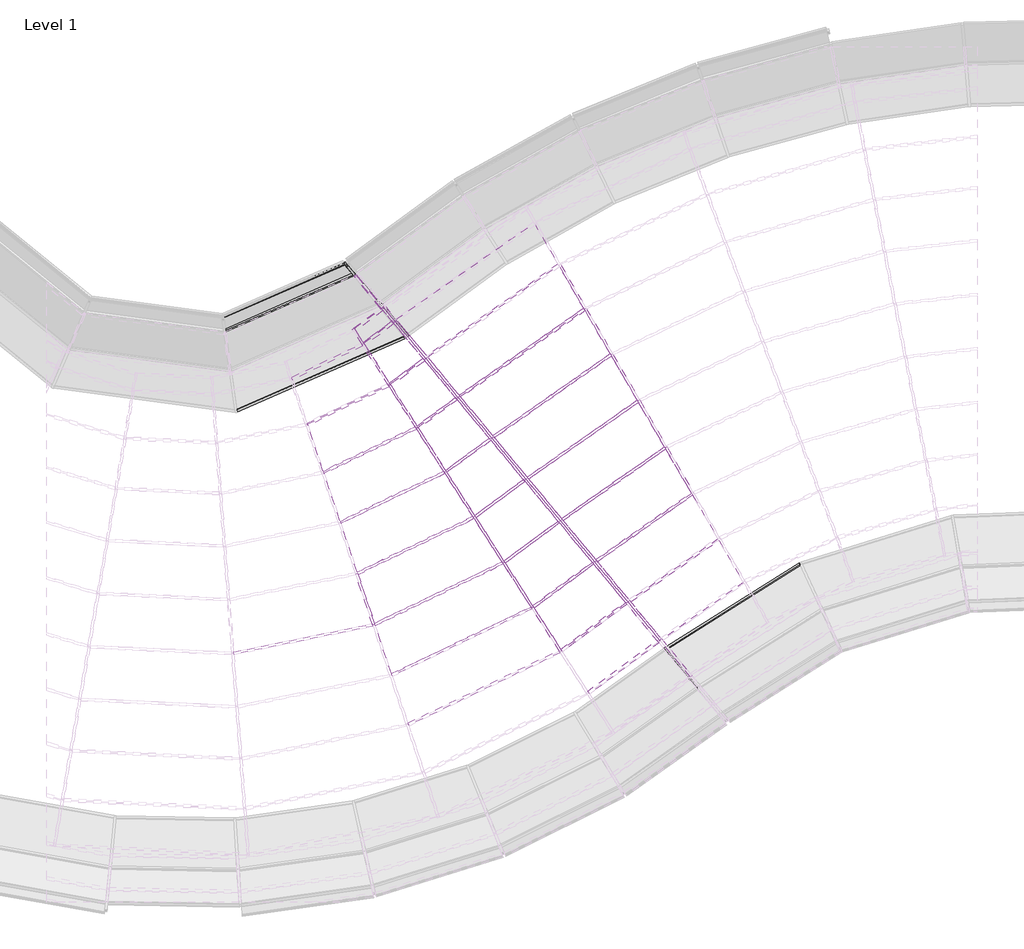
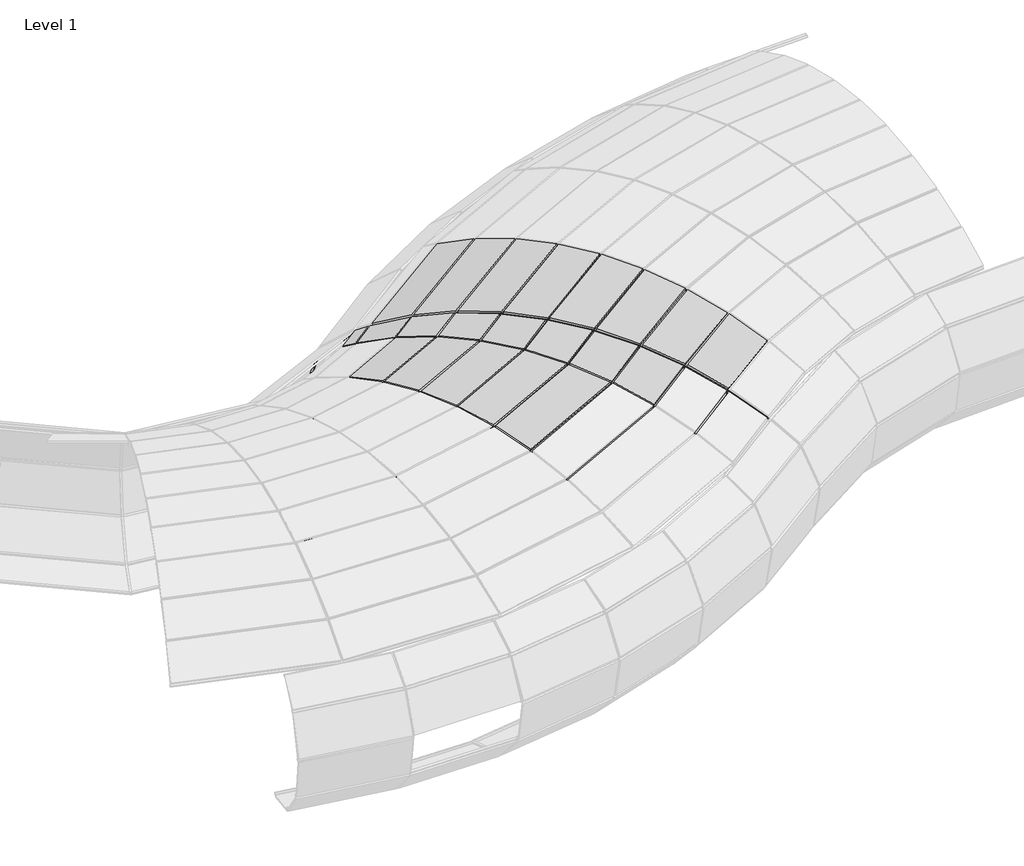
# One storey, part 7 of 23: 70 members, 21 plates.
"""IFC4 building model written with IfcOpenShell, lengths in millimetres."""

from ifc_helpers import new_model, si_unit, origin, place, context, project, spatial, transform, mapped, element, save
from components import member_da94d8b7, member_4a6620f8, member_173a6c74, member_0cd36c09, member_d0a40a1c, member_ff9adfd2, member_4382594b, member_c4b67a82, member_09e3c60a, member_ff354828, member_916b48e0, member_15ddbe85, member_a6ff0e58, member_52a3ac57, member_58e85060, member_2f10e2aa, member_56cded33, member_ca6af547, member_2c27c1a6, member_cfe416e1, member_8c9da58c, member_d6b8231b, member_072b4eca, member_c876edb5, member_88ffdf74, member_782630c7, member_6b724055, member_398e5ff5, member_61362789, member_0ea93e7c, member_4ad77235, member_01d9c279, member_724b312c, member_398607d0, member_12c77cbe, member_6b55b28e, member_04fa56c0, member_b16b9eb4, member_5ccaa950, member_ed473375, member_8050fb01, member_9defe418, member_57d99a8e, member_3bb0283d, member_1e977d90, member_54c9b6a8, member_299080b6, member_172ab1ab, member_54499f2f, member_1f55a63e, member_9f1fe171, member_9a79e7da, member_69edc900, system_panel_glazed_261e48b5, system_panel_glazed_23d094c6, system_panel_glazed_e1662e95, system_panel_glazed_d8ebcc32, system_panel_glazed_c9a67386, system_panel_glazed_185d81c2, system_panel_glazed_2beafd58, system_panel_glazed_ade15bac, system_panel_glazed_0c8f51a5, system_panel_glazed_7d733e69, system_panel_glazed_2df72c5f, system_panel_glazed_1f33159c, system_panel_glazed_93f5a557, system_panel_glazed_b4bd1deb, system_panel_glazed_67e226c0, system_panel_glazed_ffd0fcf6, system_panel_glazed_4b3f9bf2, system_panel_glazed_fd5b3178, system_panel_glazed_17174457, system_panel_glazed_b17f74a0, system_panel_glazed_a665e57d

model = new_model("IFC4")

# Units and contexts
model_context = context("Model", 3, world=origin())
ifc_project = project(units=[si_unit("LENGTHUNIT", "METRE", prefix="MILLI")], contexts=[model_context])

# Site, building, storey
site = spatial("IfcSite", under=ifc_project)
building = spatial("IfcBuilding", under=site)
storey = spatial("IfcBuildingStorey", under=building, Name="Level 1", Elevation=0.0)

# Members
placement = place(None, origin())
member_shape = member_da94d8b7(model_context)
element("IfcMember", 1, ObjectType="Rectangular Mullion : 1\" Square", at=placement, inside=storey, context=model_context, shape_type="MappedRepresentation", body=[
    mapped(member_shape, transform((-4489.9913896, -7841.6452562, 0.0), x_axis=(-0.5112600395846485, 0.8116646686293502, -0.2825130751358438), y_axis=(0.1505714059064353, -0.23904369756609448, -0.9592634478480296), z_axis=(-0.8461332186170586, -0.5329714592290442, 0.0))),
])
member_2_shape = member_4a6620f8(model_context)
element("IfcMember", 2, ObjectType="Rectangular Mullion : 1\" Square", at=placement, inside=storey, context=model_context, shape_type="MappedRepresentation", body=[
    mapped(member_2_shape, transform((-4518.8359646, -5597.6563841, 2850.17796), x_axis=(-0.5707204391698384, 0.8169353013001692, 0.08303549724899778), y_axis=(0.047554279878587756, -0.06806970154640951, 0.9965465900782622), z_axis=(0.8197662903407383, 0.5726982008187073, 0.0))),
])
member_3_shape = member_173a6c74(model_context)
element("IfcMember", 3, ObjectType="Rectangular Mullion : 1\" Square", at=placement, inside=storey, context=model_context, shape_type="MappedRepresentation", body=[
    mapped(member_3_shape, transform((-5700.0880509, -6422.892738, 2850.17796), x_axis=(0.7695535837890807, 0.6385806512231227, 0.001426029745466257), y_axis=(0.013927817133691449, -0.01901691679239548, 0.9997221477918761), z_axis=(0.6384303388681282, -0.7693199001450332, -0.023528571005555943))),
])
member_4_shape = member_0cd36c09(model_context)
element("IfcMember", 4, ObjectType="Rectangular Mullion : 1\" Square", at=placement, inside=storey, context=model_context, shape_type="MappedRepresentation", body=[
    mapped(member_4_shape, transform((-4205.0071727, -6111.9340836, 2763.3769688), x_axis=(0.8643700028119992, 0.5028563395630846, 0.0), y_axis=(0.07160175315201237, -0.12307771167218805, 0.9898106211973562), z_axis=(0.4977325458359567, -0.8555626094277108, -0.14239007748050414))),
])
element("IfcMember", 5, ObjectType="Rectangular Mullion : 1\" Square", at=placement, inside=storey, context=model_context, shape_type="MappedRepresentation", body=[
    mapped(member_4_shape, transform((-4508.4249327, -5590.3831169, 2850.17796), x_axis=(0.8643700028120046, 0.5028563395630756, 0.0), y_axis=(0.011831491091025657, -0.020337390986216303, 0.9997231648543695), z_axis=(0.5027171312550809, -0.8641307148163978, -0.023528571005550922))),
])
element("IfcMember", 6, ObjectType="Rectangular Mullion : 1\" Square", at=placement, inside=storey, context=model_context, shape_type="MappedRepresentation", body=[
    mapped(member_4_shape, transform((-7812.4907951, -7599.9482187, 2850.17796), x_axis=(0.9479570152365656, 0.31839833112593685, 0.0), y_axis=(0.007491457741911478, -0.022304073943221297, 0.9997231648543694), z_axis=(0.31831018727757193, -0.9476945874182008, -0.02352857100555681))),
])
element("IfcMember", 7, ObjectType="Rectangular Mullion : 1\" Square", at=placement, inside=storey, context=model_context, shape_type="MappedRepresentation", body=[
    mapped(member_4_shape, transform((-5699.3138591, -7897.3054898, 2605.3528615), x_axis=(0.841044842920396, 0.5409654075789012, 0.0), y_axis=(0.1402322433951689, -0.218020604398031, 0.965816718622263), z_axis=(0.5224734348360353, -0.8122951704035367, -0.259225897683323))),
])
element("IfcMember", 8, ObjectType="Rectangular Mullion : 1\" Square", at=placement, inside=storey, context=model_context, shape_type="MappedRepresentation", body=[
    mapped(member_4_shape, transform((-6017.813665, -7402.1303539, 2763.3769688), x_axis=(0.8410448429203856, 0.5409654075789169, 0.0), y_axis=(0.07702810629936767, -0.11975644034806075, 0.9898106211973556), z_axis=(0.5354533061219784, -0.8324751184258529, -0.14239007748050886))),
])
element("IfcMember", 9, ObjectType="Rectangular Mullion : 1\" Square", at=placement, inside=storey, context=model_context, shape_type="MappedRepresentation", body=[
    mapped(member_4_shape, transform((-6344.2260004, -6894.6535217, 2850.17796), x_axis=(0.8410448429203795, 0.5409654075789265, 0.0), y_axis=(0.012728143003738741, -0.019788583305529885, 0.9997231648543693), z_axis=(0.5408156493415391, -0.8408120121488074, -0.023528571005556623))),
])
element("IfcMember", 10, ObjectType="Rectangular Mullion : 1\" Square", at=placement, inside=storey, context=model_context, shape_type="MappedRepresentation", body=[
    mapped(member_4_shape, transform((-4814.8812959, -5063.6090332, 2864.5209769), x_axis=(0.8643700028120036, 0.5028563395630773, 0.0), y_axis=(-0.04810708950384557, 0.08269225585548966, 0.9954133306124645), z_axis=(0.5005499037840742, -0.8604054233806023, 0.09566766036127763))),
])
element("IfcMember", 11, ObjectType="Rectangular Mullion : 1\" Square", at=placement, inside=storey, context=model_context, shape_type="MappedRepresentation", body=[
    mapped(member_4_shape, transform((-5120.0165172, -4539.1058871, 2806.2019711), x_axis=(0.8643700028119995, 0.5028563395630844, 0.0), y_axis=(-0.10736128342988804, 0.18454549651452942, 0.9769424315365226), z_axis=(0.4912616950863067, -0.8444397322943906, 0.21350289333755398))),
])
element("IfcMember", 12, ObjectType="Rectangular Mullion : 1\" Square", at=placement, inside=storey, context=model_context, shape_type="MappedRepresentation", body=[
    mapped(member_4_shape, transform((-5419.4896466, -4024.3354263, 2676.0506073), x_axis=(0.8643700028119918, 0.5028563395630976, 0.0), y_axis=(-0.16508812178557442, 0.2837733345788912, 0.9445732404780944), z_axis=(0.4749846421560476, -0.8164607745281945, 0.3283007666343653))),
])
element("IfcMember", 13, ObjectType="Rectangular Mullion : 1\" Square", at=placement, inside=storey, context=model_context, shape_type="MappedRepresentation", body=[
    mapped(member_4_shape, transform((-6673.9072202, -6382.0945191, 2864.5209769), x_axis=(0.8410448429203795, 0.5409654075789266, 0.0), y_axis=(-0.05175289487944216, 0.0804607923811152, 0.995413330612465), z_axis=(0.5384841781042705, -0.8371872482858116, 0.09566766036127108))),
])
element("IfcMember", 14, ObjectType="Rectangular Mullion : 1\" Square", at=placement, inside=storey, context=model_context, shape_type="MappedRepresentation", body=[
    mapped(member_4_shape, transform((-7002.1671752, -5871.7451726, 2806.2019711), x_axis=(0.8410448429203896, 0.540965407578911, 0.0), y_axis=(-0.11549767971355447, 0.17956550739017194, 0.9769424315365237), z_axis=(0.5284920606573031, -0.8216523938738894, 0.21350289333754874))),
])
element("IfcMember", 15, ObjectType="Rectangular Mullion : 1\" Square", at=placement, inside=storey, context=model_context, shape_type="MappedRepresentation", body=[
    mapped(member_4_shape, transform((-7324.3359353, -5370.8658733, 2676.0506073), x_axis=(0.8410448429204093, 0.5409654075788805, 0.0), y_axis=(-0.17759935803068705, 0.2761156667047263, 0.9445732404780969), z_axis=(0.5109814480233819, -0.7944284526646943, 0.3283007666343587))),
])
member_5_shape = member_d0a40a1c(model_context)
element("IfcMember", 16, ObjectType="Rectangular Mullion : 1\" Square", at=placement, inside=storey, context=model_context, shape_type="MappedRepresentation", body=[
    mapped(member_5_shape, transform((-7635.8302261, -4886.5822885, 2475.91846), x_axis=(0.841044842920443, 0.5409654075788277, 0.0), y_axis=(-0.23717445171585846, 0.36873771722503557, 0.8987662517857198), z_axis=(0.4862014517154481, -0.7559027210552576, 0.4384281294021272))),
])
member_6_shape = member_ff9adfd2(model_context)
element("IfcMember", 17, ObjectType="Rectangular Mullion : 1\" Square", at=placement, inside=storey, context=model_context, shape_type="MappedRepresentation", body=[
    mapped(member_6_shape, transform((-7932.218631, -4425.7839898, 2208.6526723), x_axis=(0.8410448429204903, 0.5409654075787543, 0.0), y_axis=(-0.2767608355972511, 0.4302831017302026, 0.8592205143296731), z_axis=(0.46480857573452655, -0.7226429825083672, 0.5116054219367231))),
])
member_7_shape = member_4382594b(model_context)
element("IfcMember", 18, ObjectType="Rectangular Mullion : 1\" Square", at=placement, inside=storey, context=model_context, shape_type="MappedRepresentation", body=[
    mapped(member_7_shape, transform((-4825.2923278, -5070.8823003, 2864.5209769), x_axis=(-0.5723308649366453, 0.8192404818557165, -0.03581080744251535), y_axis=(-0.02050878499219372, 0.02935649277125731, 0.999358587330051), z_axis=(0.8197662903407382, 0.5726982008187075, 0.0))),
])
member_8_shape = member_c4b67a82(model_context)
element("IfcMember", 19, ObjectType="Rectangular Mullion : 1\" Square", at=placement, inside=storey, context=model_context, shape_type="MappedRepresentation", body=[
    mapped(member_8_shape, transform((-5130.4275491, -4546.3791542, 2806.2019711), x_axis=(-0.5658522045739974, 0.8099668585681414, -0.15415891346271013), y_axis=(-0.08828653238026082, 0.12637428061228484, 0.9880460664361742), z_axis=(0.8197662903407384, 0.5726982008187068, 0.0))),
])
member_9_shape = member_09e3c60a(model_context)
element("IfcMember", 20, ObjectType="Rectangular Mullion : 1\" Square", at=placement, inside=storey, context=model_context, shape_type="MappedRepresentation", body=[
    mapped(member_9_shape, transform((-5429.9006784, -4031.6086934, 2676.0506073), x_axis=(-0.5513709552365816, 0.7892382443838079, -0.27035728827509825), y_axis=(-0.1548331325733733, 0.22162979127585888, 0.9627600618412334), z_axis=(0.8197662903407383, 0.5726982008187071, 0.0))),
])
member_10_shape = member_ff354828(model_context)
element("IfcMember", 21, ObjectType="Rectangular Mullion : 1\" Square", at=placement, inside=storey, context=model_context, shape_type="MappedRepresentation", body=[
    mapped(member_10_shape, transform((-4215.4182046, -6119.2073508, 2763.3769688), x_axis=(-0.5610427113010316, 0.8030824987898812, 0.20072263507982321), y_axis=(0.11495349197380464, -0.16454564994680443, 0.9796481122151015), z_axis=(0.8197662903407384, 0.5726982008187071, 0.0))),
])
member_11_shape = member_916b48e0(model_context)
element("IfcMember", 22, ObjectType="Rectangular Mullion : 1\" Square", at=placement, inside=storey, context=model_context, shape_type="MappedRepresentation", body=[
    mapped(member_11_shape, transform((-7706.6720964, -4004.923316, 2085.6089632), x_axis=(-0.7827135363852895, -0.6213115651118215, 0.03648916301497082), y_axis=(-0.29373978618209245, 0.42046225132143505, 0.8584453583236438), z_axis=(-0.548704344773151, 0.661198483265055, -0.5116054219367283))),
])
member_12_shape = member_15ddbe85(model_context)
element("IfcMember", 23, ObjectType="Rectangular Mullion : 1\" Square", at=placement, inside=storey, context=model_context, shape_type="MappedRepresentation", body=[
    mapped(member_12_shape, transform((-4577.4743849, -7775.6621489, 2378.3537392), x_axis=(-0.7811473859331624, -0.6233665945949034, -0.03496927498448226), y_axis=(0.2757518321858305, -0.3947141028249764, 0.8764483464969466), z_axis=(-0.5601514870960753, 0.6749924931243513, 0.4802243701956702))),
])
member_13_shape = member_a6ff0e58(model_context)
element("IfcMember", 24, ObjectType="Rectangular Mullion : 1\" Square", at=placement, inside=storey, context=model_context, shape_type="MappedRepresentation", body=[
    mapped(member_13_shape, transform((-4938.7722912, -7340.2917533, 2605.3528615), x_axis=(-0.7765185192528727, -0.6294404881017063, -0.028699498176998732), y_axis=(0.21389029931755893, -0.30616484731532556, 0.9276389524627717), z_axis=(-0.5926802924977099, 0.7141902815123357, 0.3723738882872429))),
])
member_14_shape = member_52a3ac57(model_context)
element("IfcMember", 25, ObjectType="Rectangular Mullion : 1\" Square", at=placement, inside=storey, context=model_context, shape_type="MappedRepresentation", body=[
    mapped(member_14_shape, transform((-5314.759819, -6887.2201028, 2763.3769688), x_axis=(-0.7729190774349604, -0.6341637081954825, -0.02079641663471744), y_axis=(0.14893518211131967, -0.21318740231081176, 0.9655927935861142), z_axis=(-0.6167774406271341, 0.7432277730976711, 0.2592258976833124))),
])
element("IfcMember", 26, ObjectType="Rectangular Mullion : 1\" Square", at=placement, inside=storey, context=model_context, shape_type="MappedRepresentation", body=[
    mapped(member_14_shape, transform((-6857.1032347, -5028.668887, 2676.0506073), x_axis=(0.7735525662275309, 0.6334533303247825, -0.018796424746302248), y_axis=(-0.19430046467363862, 0.265296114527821, 0.9443862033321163), z_axis=(0.6032112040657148, -0.7268802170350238, 0.32830076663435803))),
])
member_15_shape = member_58e85060(model_context)
element("IfcMember", 27, ObjectType="Rectangular Mullion : 1\" Square", at=placement, inside=storey, context=model_context, shape_type="MappedRepresentation", body=[
    mapped(member_15_shape, transform((-5700.0880509, -6422.892738, 2850.17796), x_axis=(-0.7705547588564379, -0.637266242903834, -0.011708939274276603), y_axis=(0.08182178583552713, -0.11712057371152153, 0.9897413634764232), z_axis=(-0.6321001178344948, 0.7616918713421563, 0.14239007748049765))),
])
element("IfcMember", 28, ObjectType="Rectangular Mullion : 1\" Square", at=placement, inside=storey, context=model_context, shape_type="MappedRepresentation", body=[
    mapped(member_15_shape, transform((-6476.7845235, -5486.9596904, 2806.2019711), x_axis=(0.7712331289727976, 0.6364272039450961, -0.012644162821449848), y_axis=(-0.12637330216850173, 0.17254897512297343, 0.9768606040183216), z_axis=(0.6238824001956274, -0.7517893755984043, 0.2135028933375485))),
])
member_16_shape = member_2f10e2aa(model_context)
element("IfcMember", 29, ObjectType="Rectangular Mullion : 1\" Square", at=placement, inside=storey, context=model_context, shape_type="MappedRepresentation", body=[
    mapped(member_16_shape, transform((-6089.2751855, -5953.9153269, 2864.5209769), x_axis=(-0.7695608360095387, -0.6385705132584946, -0.00195429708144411), y_axis=(0.013521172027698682, -0.019354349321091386, 0.9997212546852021), z_axis=(-0.6384303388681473, 0.7693199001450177, 0.023528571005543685))),
])
member_17_shape = member_56cded33(model_context)
element("IfcMember", 30, ObjectType="Rectangular Mullion : 1\" Square", at=placement, inside=storey, context=model_context, shape_type="MappedRepresentation", body=[
    mapped(member_17_shape, transform((-6476.7845235, -5486.9596904, 2806.2019711), x_axis=(-0.7699942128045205, -0.6380018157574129, 0.007911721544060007), y_axis=(-0.05497573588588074, 0.07869285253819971, 0.9953818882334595), z_axis=(-0.6356780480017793, 0.766003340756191, -0.09566766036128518))),
])
element("IfcMember", 31, ObjectType="Rectangular Mullion : 1\" Square", at=placement, inside=storey, context=model_context, shape_type="MappedRepresentation", body=[
    mapped(member_17_shape, transform((-5314.759819, -6887.2201028, 2763.3769688), x_axis=(0.7702891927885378, 0.637637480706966, 0.008544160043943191), y_axis=(0.0842852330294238, -0.11508230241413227, 0.9897737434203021), z_axis=(0.6321001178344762, -0.7616918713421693, -0.14239007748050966))),
])
member_18_shape = member_ca6af547(model_context)
element("IfcMember", 32, ObjectType="Rectangular Mullion : 1\" Square", at=placement, inside=storey, context=model_context, shape_type="MappedRepresentation", body=[
    mapped(member_18_shape, transform((-6857.1032347, -5028.668887, 2676.0506073), x_axis=(-0.7718300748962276, -0.635592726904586, 0.017326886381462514), y_axis=(-0.12267471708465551, 0.1755978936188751, 0.9767887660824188), z_axis=(-0.6238824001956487, 0.751789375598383, -0.21350289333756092))),
])
element("IfcMember", 33, ObjectType="Rectangular Mullion : 1\" Square", at=placement, inside=storey, context=model_context, shape_type="MappedRepresentation", body=[
    mapped(member_18_shape, transform((-4938.7722912, -7340.2917533, 2605.3528615), x_axis=(0.7720392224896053, 0.6353936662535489, 0.01517655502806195), y_axis=(0.15343085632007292, -0.2094931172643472, 0.965697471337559), z_axis=(0.6167774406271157, -0.7432277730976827, -0.25922589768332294))),
])
member_19_shape = member_2c27c1a6(model_context)
element("IfcMember", 34, ObjectType="Rectangular Mullion : 1\" Square", at=placement, inside=storey, context=model_context, shape_type="MappedRepresentation", body=[
    mapped(member_19_shape, transform((-7224.8207847, -4585.5627067, 2475.91846), x_axis=(-0.7749633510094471, -0.6314811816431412, 0.02575503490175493), y_axis=(-0.18859493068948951, 0.2699567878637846, 0.9442220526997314), z_axis=(-0.6032112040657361, 0.7268802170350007, -0.3283007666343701))),
])
member_20_shape = member_cfe416e1(model_context)
element("IfcMember", 35, ObjectType="Rectangular Mullion : 1\" Square", at=placement, inside=storey, context=model_context, shape_type="MappedRepresentation", body=[
    mapped(member_20_shape, transform((-7574.7059074, -4163.9449181, 2208.6526723), x_axis=(-0.7792148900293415, -0.625902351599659, 0.032716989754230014), y_axis=(-0.2517851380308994, 0.3604079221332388, 0.898170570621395), z_axis=(-0.5739585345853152, 0.6916302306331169, -0.43842812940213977))),
])
member_21_shape = member_8c9da58c(model_context)
element("IfcMember", 36, ObjectType="Rectangular Mullion : 1\" Square", at=placement, inside=storey, context=model_context, shape_type="MappedRepresentation", body=[
    mapped(member_21_shape, transform((-8019.1399957, -3654.2311779, 1696.6281859), x_axis=(0.773050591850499, 0.6343443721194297, 0.0), y_axis=(-0.6039969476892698, 0.7360673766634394, 0.30560187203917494), z_axis=(0.1938568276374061, -0.2362457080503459, 0.9521593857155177))),
])
element("IfcMember", 37, ObjectType="Rectangular Mullion : 1\" Square", at=placement, inside=storey, context=model_context, shape_type="MappedRepresentation", body=[
    mapped(member_21_shape, transform((-8137.3151178, -3510.2157943, 1116.1918244), x_axis=(0.7730505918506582, 0.6343443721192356, 0.0), y_axis=(-0.6134075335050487, 0.7475356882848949, -0.25479715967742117), z_axis=(-0.16162914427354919, 0.19697109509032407, 0.9669945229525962))),
])
member_22_shape = member_d6b8231b(model_context)
element("IfcMember", 38, ObjectType="Rectangular Mullion : 1\" Square", at=placement, inside=storey, context=model_context, shape_type="MappedRepresentation", body=[
    mapped(member_22_shape, transform((-7721.3991846, -4017.0762197, 2085.6089632), x_axis=(0.773050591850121, 0.63434437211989, 0.0), y_axis=(-0.4047699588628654, 0.4932772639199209, 0.7699602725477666), z_axis=(0.48841996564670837, -0.5952182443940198, 0.6380918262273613))),
])
member_23_shape = member_072b4eca(model_context)
element("IfcMember", 39, ObjectType="Rectangular Mullion : 1\" Square", at=placement, inside=storey, context=model_context, shape_type="MappedRepresentation", body=[
    mapped(member_23_shape, transform((-7431.1949615, -4336.8781574, 0.0), x_axis=(-0.7714841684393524, -0.6361048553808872, -0.013520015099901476), y_axis=(-0.13515039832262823, 0.18460447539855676, -0.9734760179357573), z_axis=(0.6217286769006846, -0.74919410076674, -0.22838925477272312))),
])
member_24_shape = member_c876edb5(model_context)
element("IfcMember", 40, ObjectType="Rectangular Mullion : 1\" Square", at=placement, inside=storey, context=model_context, shape_type="MappedRepresentation", body=[
    mapped(member_24_shape, transform((-7335.7836729, -5376.3649008, 2676.0506073), x_axis=(-0.4169348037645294, 0.8679644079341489, -0.26982059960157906), y_axis=(-0.1168307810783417, 0.24321538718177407, 0.9629106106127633), z_axis=(0.9013966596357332, 0.4329942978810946, 0.0))),
])
member_25_shape = member_88ffdf74(model_context)
element("IfcMember", 41, ObjectType="Rectangular Mullion : 1\" Square", at=placement, inside=storey, context=model_context, shape_type="MappedRepresentation", body=[
    mapped(member_25_shape, transform((-6877.5951271, -5043.676963, 2676.0506073), x_axis=(-0.5687139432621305, 0.7765169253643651, -0.27126723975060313), y_axis=(-0.16028343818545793, 0.21884957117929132, 0.9625040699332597), z_axis=(0.806767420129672, 0.590869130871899, 0.0))),
])
member_26_shape = member_782630c7(model_context)
element("IfcMember", 42, ObjectType="Rectangular Mullion : 1\" Square", at=placement, inside=storey, context=model_context, shape_type="MappedRepresentation", body=[
    mapped(member_26_shape, transform((-7647.2779636, -4892.0813161, 2475.91846), x_axis=(-0.40017197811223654, 0.8330679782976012, -0.381916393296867), y_axis=(-0.1653676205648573, 0.3442581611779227, 0.9241968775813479), z_axis=(0.9013966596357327, 0.4329942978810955, 0.0))),
])
member_27_shape = member_6b724055(model_context)
element("IfcMember", 43, ObjectType="Rectangular Mullion : 1\" Square", at=placement, inside=storey, context=model_context, shape_type="MappedRepresentation", body=[
    mapped(member_27_shape, transform((-7245.3126771, -4600.5707826, 2475.91846), x_axis=(-0.5456170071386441, 0.7449805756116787, -0.3838046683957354), y_axis=(-0.2267783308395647, 0.30964110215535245, 0.9234143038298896), z_axis=(0.8067674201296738, 0.5908691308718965, 0.0))),
])
member_28_shape = member_398e5ff5(model_context)
element("IfcMember", 44, ObjectType="Rectangular Mullion : 1\" Square", at=placement, inside=storey, context=model_context, shape_type="MappedRepresentation", body=[
    mapped(member_28_shape, transform((-7943.6663686, -4431.2830173, 2208.6526723), x_axis=(-0.37774860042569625, 0.786387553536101, -0.4887746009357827), y_axis=(-0.21163661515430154, 0.44057979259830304, 0.8724101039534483), z_axis=(0.9013966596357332, 0.43299429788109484, 0.0))),
])
member_29_shape = member_61362789(model_context)
element("IfcMember", 45, ObjectType="Rectangular Mullion : 1\" Square", at=placement, inside=storey, context=model_context, shape_type="MappedRepresentation", body=[
    mapped(member_29_shape, transform((-7595.1977998, -4178.9529941, 2208.6526723), x_axis=(-0.5147657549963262, 0.7028565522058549, -0.49092655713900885), y_axis=(-0.290073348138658, 0.3960635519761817, 0.8712009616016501), z_axis=(0.8067674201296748, 0.5908691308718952, 0.0))),
])
member_30_shape = member_0ea93e7c(model_context)
element("IfcMember", 46, ObjectType="Rectangular Mullion : 1\" Square", at=placement, inside=storey, context=model_context, shape_type="MappedRepresentation", body=[
    mapped(member_30_shape, transform((-6029.2614025, -7407.6293815, 2763.3769688), x_axis=(-0.4242954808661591, 0.8832876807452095, 0.19943976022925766), y_axis=(0.08635627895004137, -0.17977433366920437, 0.9799100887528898), z_axis=(0.901396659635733, 0.4329942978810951, 0.0))),
])
member_31_shape = member_4ad77235(model_context)
element("IfcMember", 47, ObjectType="Rectangular Mullion : 1\" Square", at=placement, inside=storey, context=model_context, shape_type="MappedRepresentation", body=[
    mapped(member_31_shape, transform((-5335.2517115, -6902.2281787, 2763.3769688), x_axis=(-0.5788620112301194, 0.7903730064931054, 0.20057238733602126), y_axis=(0.11851203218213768, -0.16181526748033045, 0.9796788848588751), z_axis=(0.8067674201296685, 0.5908691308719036, 0.0))),
])
member_32_shape = member_01d9c279(model_context)
element("IfcMember", 48, ObjectType="Rectangular Mullion : 1\" Square", at=placement, inside=storey, context=model_context, shape_type="MappedRepresentation", body=[
    mapped(member_32_shape, transform((-7824.936967, -7602.4746403, 2850.17796), x_axis=(-0.1982577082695, 0.9766974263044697, 0.08219500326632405), y_axis=(0.016351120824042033, -0.08055221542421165, 0.9966162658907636), z_axis=(0.9800135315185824, 0.19893083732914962, 0.0))),
])
element("IfcMember", 49, ObjectType="Rectangular Mullion : 1\" Square", at=placement, inside=storey, context=model_context, shape_type="MappedRepresentation", body=[
    mapped(member_32_shape, transform((-6355.6737379, -6900.1525493, 2850.17796), x_axis=(-0.43152916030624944, 0.898346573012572, 0.08219500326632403), y_axis=(0.03558996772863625, -0.07409030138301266, 0.9966162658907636), z_axis=(0.9013966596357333, 0.43299429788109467, 0.0))),
])
member_33_shape = member_724b312c(model_context)
element("IfcMember", 50, ObjectType="Rectangular Mullion : 1\" Square", at=placement, inside=storey, context=model_context, shape_type="MappedRepresentation", body=[
    mapped(member_33_shape, transform((-5720.5799434, -6437.900814, 2850.17796), x_axis=(-0.5888457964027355, 0.8040047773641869, 0.08268582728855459), y_axis=(0.04885650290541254, -0.06670823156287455, 0.9965756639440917), z_axis=(0.8067674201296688, 0.5908691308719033, 0.0))),
])
member_34_shape = member_398607d0(model_context)
element("IfcMember", 51, ObjectType="Rectangular Mullion : 1\" Square", at=placement, inside=storey, context=model_context, shape_type="MappedRepresentation", body=[
    mapped(member_34_shape, transform((-6685.3549578, -6387.5935467, 2864.5209769), x_axis=(-0.43271099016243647, 0.9008068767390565, -0.036168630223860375), y_axis=(-0.015660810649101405, 0.03260228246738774, 0.9993457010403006), z_axis=(0.9013966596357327, 0.43299429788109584, 0.0))),
])
member_35_shape = member_12c77cbe(model_context)
element("IfcMember", 52, ObjectType="Rectangular Mullion : 1\" Square", at=placement, inside=storey, context=model_context, shape_type="MappedRepresentation", body=[
    mapped(member_35_shape, transform((-5710.7615966, -7902.8045174, 2605.3528615), x_axis=(-0.41109956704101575, 0.855816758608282, 0.31396627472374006), y_axis=(0.13594560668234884, -0.28300815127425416, 0.9494341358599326), z_axis=(0.901396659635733, 0.43299429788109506, 0.0))),
])
member_36_shape = member_6b55b28e(model_context)
element("IfcMember", 53, ObjectType="Rectangular Mullion : 1\" Square", at=placement, inside=storey, context=model_context, shape_type="MappedRepresentation", body=[
    mapped(member_36_shape, transform((-4959.2641837, -7355.2998292, 2605.3528615), x_axis=(-0.5606647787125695, 0.7655266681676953, 0.3156325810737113), y_axis=(0.18649754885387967, -0.25464208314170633, 0.9488814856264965), z_axis=(0.806767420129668, 0.5908691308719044, 0.0))),
])
member_37_shape = member_04fa56c0(model_context)
element("IfcMember", 54, ObjectType="Rectangular Mullion : 1\" Square", at=placement, inside=storey, context=model_context, shape_type="MappedRepresentation", body=[
    mapped(member_37_shape, transform((-4597.9662774, -7790.6702248, 2378.3537392), x_axis=(-0.5345056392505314, 0.729809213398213, 0.42624198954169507), y_axis=(0.2518532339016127, -0.3438781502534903, 0.9046091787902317), z_axis=(0.8067674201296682, 0.5908691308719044, 0.0))),
])
member_38_shape = member_b16b9eb4(model_context)
element("IfcMember", 55, ObjectType="Rectangular Mullion : 1\" Square", at=placement, inside=storey, context=model_context, shape_type="MappedRepresentation", body=[
    mapped(member_38_shape, transform((-6109.7670779, -5968.9234028, 2864.5209769), x_axis=(-0.5904782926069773, 0.8062337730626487, -0.0363660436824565), y_axis=(-0.021487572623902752, 0.02933893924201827, 0.9993385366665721), z_axis=(0.8067674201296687, 0.5908691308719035, 0.0))),
])
member_39_shape = member_5ccaa950(model_context)
element("IfcMember", 56, ObjectType="Rectangular Mullion : 1\" Square", at=placement, inside=storey, context=model_context, shape_type="MappedRepresentation", body=[
    mapped(member_39_shape, transform((-7013.6149127, -5877.2442002, 2806.2019711), x_axis=(-0.4278261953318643, 0.8906378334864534, -0.1540421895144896), y_axis=(-0.06669938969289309, 0.13885311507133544, 0.9880642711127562), z_axis=(0.9013966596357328, 0.43299429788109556, 0.0))),
])
member_40_shape = member_ed473375(model_context)
element("IfcMember", 57, ObjectType="Rectangular Mullion : 1\" Square", at=placement, inside=storey, context=model_context, shape_type="MappedRepresentation", body=[
    mapped(member_40_shape, transform((-6497.276416, -5501.9677663, 2806.2019711), x_axis=(-0.5837367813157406, 0.7970289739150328, -0.15490702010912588), y_axis=(-0.09152977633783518, 0.12497393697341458, 0.9879290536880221), z_axis=(0.806767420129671, 0.5908691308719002, 0.0))),
])
member_41_shape = member_8050fb01(model_context)
element("IfcMember", 58, ObjectType="Rectangular Mullion : 1\" Square", at=placement, inside=storey, context=model_context, shape_type="MappedRepresentation", body=[
    mapped(member_41_shape, transform((-4577.4743849, -7775.6621489, 2378.3537392), x_axis=(0.7747039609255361, 0.6319770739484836, 0.020946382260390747), y_axis=(0.22037205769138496, -0.300894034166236, 0.9278463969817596), z_axis=(0.5926802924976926, -0.714190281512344, -0.3723738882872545))),
])
member_42_shape = member_9defe418(model_context)
element("IfcMember", 59, ObjectType="Rectangular Mullion : 1\" Square", at=placement, inside=storey, context=model_context, shape_type="MappedRepresentation", body=[
    mapped(member_42_shape, transform((-6089.2751855, -5953.9153269, 2864.5209769), x_axis=(0.7698743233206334, 0.6381694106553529, -0.005773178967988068), y_axis=(-0.05662990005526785, 0.07732195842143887, 0.9953965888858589), z_axis=(0.6356780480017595, -0.7660033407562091, 0.09566766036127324))),
])
member_43_shape = member_57d99a8e(model_context)
element("IfcMember", 60, ObjectType="Rectangular Mullion : 1\" Square", at=placement, inside=storey, context=model_context, shape_type="MappedRepresentation", body=[
    mapped(member_43_shape, transform((-7224.8207847, -4585.5627067, 2475.91846), x_axis=(0.7767005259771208, 0.6294171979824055, -0.023880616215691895), y_axis=(-0.2594376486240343, 0.35423384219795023, 0.8984489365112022), z_axis=(0.5739585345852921, -0.6916302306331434, 0.43842812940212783))),
])
member_44_shape = member_3bb0283d(model_context)
element("IfcMember", 61, ObjectType="Rectangular Mullion : 1\" Square", at=placement, inside=storey, context=model_context, shape_type="MappedRepresentation", body=[
    mapped(member_44_shape, transform((-7574.7059074, -4163.9449181, 2208.6526723), x_axis=(0.7792916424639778, 0.6260950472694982, -0.026636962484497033), y_axis=(-0.3027013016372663, 0.413305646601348, 0.8588075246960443), z_axis=(0.5487043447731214, -0.6611984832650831, 0.5116054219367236))),
])
member_45_shape = member_1e977d90(model_context)
element("IfcMember", 62, ObjectType="Rectangular Mullion : 1\" Square", at=placement, inside=storey, context=model_context, shape_type="MappedRepresentation", body=[
    mapped(member_45_shape, transform((-7727.1639888, -4019.9313919, 2085.6089632), x_axis=(-0.5074428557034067, 0.6928579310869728, -0.5122983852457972), y_axis=(-0.3027013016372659, 0.4133056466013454, 0.8588075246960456), z_axis=(0.8067674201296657, 0.5908691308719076, 0.0))),
])
member_46_shape = member_54c9b6a8(model_context)
element("IfcMember", 63, ObjectType="Rectangular Mullion : 1\" Square", at=placement, inside=storey, context=model_context, shape_type="MappedRepresentation", body=[
    mapped(member_46_shape, transform((-4511.4831733, -7855.1827313, 0.0), x_axis=(0.7731223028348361, 0.6339365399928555, -0.02015857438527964), y_axis=(0.16280010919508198, -0.22906174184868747, -0.9597014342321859), z_axis=(-0.6130073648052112, 0.7386847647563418, -0.2802976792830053))),
])
member_47_shape = member_299080b6(model_context)
element("IfcMember", 64, ObjectType="Rectangular Mullion : 1\" Square", at=placement, inside=storey, context=model_context, shape_type="MappedRepresentation", body=[
    mapped(member_47_shape, transform((-8148.9438553, -3515.3209351, 1116.1918244), x_axis=(-0.011000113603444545, 0.025056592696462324, -0.9996255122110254), y_axis=(-0.4018290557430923, 0.915305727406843, 0.02736485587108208), z_axis=(0.9156486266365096, 0.40197959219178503, 0.0))),
])
member_48_shape = member_172ab1ab(model_context)
element("IfcMember", 65, ObjectType="Rectangular Mullion : 1\" Square", at=placement, inside=storey, context=model_context, shape_type="MappedRepresentation", body=[
    mapped(member_48_shape, transform((-7459.38962, -4355.6536205, 0.0), x_axis=(0.3905545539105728, -0.8896241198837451, -0.23671938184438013), y_axis=(-0.09515636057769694, 0.21675177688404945, -0.9715780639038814), z_axis=(0.9156486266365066, 0.4019795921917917, 0.0))),
])
member_49_shape = member_54499f2f(model_context)
element("IfcMember", 66, ObjectType="Rectangular Mullion : 1\" Square", at=placement, inside=storey, context=model_context, shape_type="MappedRepresentation", body=[
    mapped(member_49_shape, transform((-8050.414729, -3635.3945146, 526.7119632), x_axis=(0.21232057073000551, -0.48363410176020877, -0.8491278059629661), y_axis=(-0.341332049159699, 0.7775027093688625, -0.5281874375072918), z_axis=(0.9156486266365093, 0.4019795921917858, 0.0))),
])
member_50_shape = member_1f55a63e(model_context)
element("IfcMember", 67, ObjectType="Rectangular Mullion : 1\" Square", at=placement, inside=storey, context=model_context, shape_type="MappedRepresentation", body=[
    mapped(member_50_shape, transform((-8006.4137076, -3643.7293495, 1696.6281859), x_axis=(0.7711301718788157, 0.6366770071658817, -0.0008040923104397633), y_axis=(-0.6060288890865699, 0.7343957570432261, 0.305600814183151), z_axis=(0.19515953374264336, -0.23517070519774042, 0.9521593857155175))),
])
member_51_shape = member_9f1fe171(model_context)
element("IfcMember", 68, ObjectType="Rectangular Mullion : 1\" Square", at=placement, inside=storey, context=model_context, shape_type="MappedRepresentation", body=[
    mapped(member_51_shape, transform((-8125.3829594, -3500.3692876, 1116.1918244), x_axis=(0.77118033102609, 0.6366163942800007, 0.0006808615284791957), y_axis=(-0.6154710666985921, 0.7458379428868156, -0.2547962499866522), z_axis=(-0.16271528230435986, 0.1960748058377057, 0.966994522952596))),
])
member_52_shape = member_9a79e7da(model_context)
element("IfcMember", 69, ObjectType="Rectangular Mullion : 1\" Square", at=placement, inside=storey, context=model_context, shape_type="MappedRepresentation", body=[
    mapped(member_52_shape, transform((-8026.1917233, -3619.8964892, 526.7119632), x_axis=(0.7703426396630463, 0.6376286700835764, 0.0013771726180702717), y_axis=(-0.43149175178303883, 0.5228887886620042, -0.7351205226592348), z_axis=(-0.46945402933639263, 0.5657004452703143, 0.6779350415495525))),
])
member_53_shape = member_69edc900(model_context)
element("IfcMember", 70, ObjectType="Rectangular Mullion : 1\" Square", at=placement, inside=storey, context=model_context, shape_type="MappedRepresentation", body=[
    mapped(member_53_shape, transform((-7706.6720964, -4004.923316, 2085.6089632), x_axis=(0.7702502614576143, 0.6377403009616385, -0.0013576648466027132), y_axis=(-0.4061324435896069, 0.49215796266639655, 0.769959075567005), z_axis=(0.4917021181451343, -0.5925097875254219, 0.63809182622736))),
])

# Plates
system_panel_glazed_shape = system_panel_glazed_261e48b5(model_context)
element("IfcPlate", 71, ObjectType="System Panel : Glazed", at=placement, inside=storey, context=model_context, shape_type="MappedRepresentation", body=[
    mapped(system_panel_glazed_shape, transform((-4102.487652, -7429.4597429, 2383.0969125), x_axis=(0.8197662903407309, 0.5726982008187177, 0.0), y_axis=(-0.21389029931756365, 0.3061648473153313, -0.9276389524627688), z_axis=(-0.5312571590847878, 0.7604471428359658, 0.37347821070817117))),
])
system_panel_glazed_2_shape = system_panel_glazed_23d094c6(model_context)
element("IfcPlate", 72, ObjectType="System Panel : Glazed", at=placement, inside=storey, context=model_context, shape_type="MappedRepresentation", body=[
    mapped(system_panel_glazed_2_shape, transform((-4425.6591859, -6966.8658338, 2608.6556077), x_axis=(0.8197662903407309, 0.5726982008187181, 0.0), y_axis=(-0.14893518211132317, 0.2131874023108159, -0.9655927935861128), z_axis=(-0.5529932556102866, 0.7915604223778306, 0.2600587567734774))),
])
system_panel_glazed_3_shape = system_panel_glazed_e1662e95(model_context)
element("IfcPlate", 73, ObjectType="System Panel : Glazed", at=placement, inside=storey, context=model_context, shape_type="MappedRepresentation", body=[
    mapped(system_panel_glazed_3_shape, transform((-4761.8590631, -6485.623956, 2765.1914265), x_axis=(0.8197662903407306, 0.5726982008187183, 0.0), y_axis=(-0.0818217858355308, 0.11712057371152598, -0.9897413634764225), z_axis=(-0.5668230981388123, 0.8113566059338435, 0.14287068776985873))),
])
system_panel_glazed_4_shape = system_panel_glazed_d8ebcc32(model_context)
element("IfcPlate", 74, ObjectType="System Panel : Glazed", at=placement, inside=storey, context=model_context, shape_type="MappedRepresentation", body=[
    mapped(system_panel_glazed_4_shape, transform((-5106.3042899, -5992.5806409, 2850.4778018), x_axis=(0.8197662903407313, 0.5726982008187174, 0.0), y_axis=(-0.013521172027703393, 0.01935434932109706, -0.9997212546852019), z_axis=(-0.5725385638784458, 0.8195377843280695, 0.023609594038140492))),
])
system_panel_glazed_5_shape = system_panel_glazed_c9a67386(model_context)
element("IfcPlate", 75, ObjectType="System Panel : Glazed", at=placement, inside=storey, context=model_context, shape_type="MappedRepresentation", body=[
    mapped(system_panel_glazed_5_shape, transform((-5454.0946324, -5494.7501791, 2863.3018499), x_axis=(0.8197662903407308, 0.5726982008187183, 0.0), y_axis=(0.05497573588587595, -0.07869285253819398, -0.9953818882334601), z_axis=(-0.5700534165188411, 0.8159805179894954, -0.09599425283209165))),
])
system_panel_glazed_6_shape = system_panel_glazed_185d81c2(model_context)
element("IfcPlate", 76, ObjectType="System Panel : Glazed", at=placement, inside=storey, context=model_context, shape_type="MappedRepresentation", body=[
    mapped(system_panel_glazed_6_shape, transform((-5800.282336, -4999.2148201, 2803.4815699), x_axis=(0.8197662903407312, 0.5726982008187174, 0.0), y_axis=(0.12267471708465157, -0.17559789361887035, -0.97678876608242), z_axis=(-0.559405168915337, 0.8007385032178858, -0.21420482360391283))),
])
system_panel_glazed_7_shape = system_panel_glazed_2beafd58(model_context)
element("IfcPlate", 77, ObjectType="System Panel : Glazed", at=placement, inside=storey, context=model_context, shape_type="MappedRepresentation", body=[
    mapped(system_panel_glazed_7_shape, transform((-6139.9425103, -4513.0240238, 2671.8683773), x_axis=(0.8197662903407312, 0.5726982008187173, 0.0), y_axis=(0.1885949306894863, -0.2699567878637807, -0.9442220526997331), z_axis=(-0.5407542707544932, 0.7740414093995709, -0.32930945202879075))),
])
system_panel_glazed_8_shape = system_panel_glazed_ade15bac(model_context)
element("IfcPlate", 78, ObjectType="System Panel : Glazed", at=placement, inside=storey, context=model_context, shape_type="MappedRepresentation", body=[
    mapped(system_panel_glazed_8_shape, transform((-6468.2431794, -4043.0941949, 2470.3349411), x_axis=(0.8197662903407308, 0.572698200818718, 0.0), y_axis=(0.2517851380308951, -0.36040792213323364, -0.8981705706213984), z_axis=(-0.514380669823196, 0.7362899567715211, -0.43964716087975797))),
])
system_panel_glazed_9_shape = system_panel_glazed_0c8f51a5(model_context)
element("IfcPlate", 79, ObjectType="System Panel : Glazed", at=placement, inside=storey, context=model_context, shape_type="MappedRepresentation", body=[
    mapped(system_panel_glazed_9_shape, transform((-5331.421451, -7612.6625809, 2608.6506677), x_axis=(0.8067674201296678, 0.5908691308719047, 0.0), y_axis=(-0.1534308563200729, 0.20949311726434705, -0.965697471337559), z_axis=(-0.5706008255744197, 0.7790932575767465, 0.2596697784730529))),
])
system_panel_glazed_10_shape = system_panel_glazed_7d733e69(model_context)
element("IfcPlate", 80, ObjectType="System Panel : Glazed", at=placement, inside=storey, context=model_context, shape_type="MappedRepresentation", body=[
    mapped(system_panel_glazed_10_shape, transform((-6824.5354177, -7775.7031782, 2765.1989775), x_axis=(0.9013966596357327, 0.4329942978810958, 0.0), y_axis=(-0.06211963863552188, 0.12931910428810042, -0.9896553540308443), z_axis=(-0.4285151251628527, 0.8920720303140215, 0.14346525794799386))),
])
system_panel_glazed_11_shape = system_panel_glazed_2df72c5f(model_context)
element("IfcPlate", 81, ObjectType="System Panel : Glazed", at=placement, inside=storey, context=model_context, shape_type="MappedRepresentation", body=[
    mapped(system_panel_glazed_11_shape, transform((-5678.8462296, -7138.2928275, 2765.1885754), x_axis=(0.8067674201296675, 0.5908691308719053, 0.0), y_axis=(-0.08428523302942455, 0.11508230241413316, -0.989773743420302), z_axis=(-0.5848267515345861, 0.7985172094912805, 0.1426461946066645))),
])
system_panel_glazed_12_shape = system_panel_glazed_1f33159c(model_context)
element("IfcPlate", 82, ObjectType="System Panel : Glazed", at=placement, inside=storey, context=model_context, shape_type="MappedRepresentation", body=[
    mapped(system_panel_glazed_12_shape, transform((-7083.8558794, -7235.8563508, 2850.4790751), x_axis=(0.9013966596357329, 0.4329942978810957, 0.0), y_axis=(-0.010266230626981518, 0.02137198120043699, -0.999718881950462), z_axis=(-0.4328725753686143, 0.901143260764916, 0.023709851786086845))),
])
system_panel_glazed_13_shape = system_panel_glazed_93f5a557(model_context)
element("IfcPlate", 83, ObjectType="System Panel : Glazed", at=placement, inside=storey, context=model_context, shape_type="MappedRepresentation", body=[
    mapped(system_panel_glazed_13_shape, transform((-6034.7913524, -6652.2889345, 2850.4773212), x_axis=(0.8067674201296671, 0.5908691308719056, 0.0), y_axis=(-0.013927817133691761, 0.019016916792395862, -0.9997221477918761), z_axis=(-0.5907049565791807, 0.8065432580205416, 0.02357174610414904))),
])
system_panel_glazed_14_shape = system_panel_glazed_b4bd1deb(model_context)
element("IfcPlate", 84, ObjectType="System Panel : Glazed", at=placement, inside=storey, context=model_context, shape_type="MappedRepresentation", body=[
    mapped(system_panel_glazed_14_shape, transform((-7345.6933704, -6690.7696351, 2863.296718), x_axis=(0.9013966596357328, 0.4329942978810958, 0.0), y_axis=(0.041739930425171, -0.0868931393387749, -0.9953428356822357), z_axis=(-0.4309777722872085, 0.8971987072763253, -0.0963983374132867))),
])
system_panel_glazed_15_shape = system_panel_glazed_67e226c0(model_context)
element("IfcPlate", 85, ObjectType="System Panel : Glazed", at=placement, inside=storey, context=model_context, shape_type="MappedRepresentation", body=[
    mapped(system_panel_glazed_15_shape, transform((-6394.1929893, -6161.5649877, 2863.3037873), x_axis=(0.8067674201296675, 0.5908691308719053, 0.0), y_axis=(0.05662990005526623, -0.07732195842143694, -0.9953965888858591), z_axis=(-0.5881491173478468, 0.8030535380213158, -0.09584169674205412))),
])
system_panel_glazed_16_shape = system_panel_glazed_ffd0fcf6(model_context)
element("IfcPlate", 86, ObjectType="System Panel : Glazed", at=placement, inside=storey, context=model_context, shape_type="MappedRepresentation", body=[
    mapped(system_panel_glazed_16_shape, transform((-7606.3229546, -6148.1975095, 2803.4705448), x_axis=(0.9013966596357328, 0.43299429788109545, 0.0), y_axis=(0.0931253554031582, -0.19386602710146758, -0.9765979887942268), z_axis=(-0.42286136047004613, 0.8803021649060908, -0.2150729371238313))),
])
system_panel_glazed_17_shape = system_panel_glazed_4b3f9bf2(model_context)
element("IfcPlate", 87, ObjectType="System Panel : Glazed", at=placement, inside=storey, context=model_context, shape_type="MappedRepresentation", body=[
    mapped(system_panel_glazed_17_shape, transform((-6751.9381975, -5673.1021632, 2803.4857335), x_axis=(0.8067674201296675, 0.5908691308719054, 0.0), y_axis=(0.126373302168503, -0.17254897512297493, -0.9768606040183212), z_axis=(-0.5771967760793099, 0.7880993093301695, -0.21387697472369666))),
])
system_panel_glazed_18_shape = system_panel_glazed_fd5b3178(model_context)
element("IfcPlate", 88, ObjectType="System Panel : Glazed", at=placement, inside=storey, context=model_context, shape_type="MappedRepresentation", body=[
    mapped(system_panel_glazed_18_shape, transform((-7862.0370274, -5615.858372, 2671.8525455), x_axis=(0.9013966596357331, 0.43299429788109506, 0.0), y_axis=(0.14312888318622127, -0.29796211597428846, -0.9437863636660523), z_axis=(-0.4086541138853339, 0.8507258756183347, -0.3305560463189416))),
])
system_panel_glazed_19_shape = system_panel_glazed_17174457(model_context)
element("IfcPlate", 89, ObjectType="System Panel : Glazed", at=placement, inside=storey, context=model_context, shape_type="MappedRepresentation", body=[
    mapped(system_panel_glazed_19_shape, transform((-7102.9376577, -5193.8494134, 2671.8743595), x_axis=(0.8067674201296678, 0.5908691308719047, 0.0), y_axis=(0.19430046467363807, -0.2652961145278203, -0.9443862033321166), z_axis=(-0.5580086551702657, 0.7619000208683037, -0.32883840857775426))),
])
system_panel_glazed_20_shape = system_panel_glazed_b17f74a0(model_context)
element("IfcPlate", 90, ObjectType="System Panel : Glazed", at=placement, inside=storey, context=model_context, shape_type="MappedRepresentation", body=[
    mapped(system_panel_glazed_20_shape, transform((-7442.1980673, -4730.6246188, 2470.3421691), x_axis=(0.8067674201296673, 0.5908691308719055, 0.0), y_axis=(0.2594376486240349, -0.354233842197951, -0.8984489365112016), z_axis=(-0.5308657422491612, 0.7248393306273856, -0.4390780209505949))),
])
system_panel_glazed_21_shape = system_panel_glazed_a665e57d(model_context)
element("IfcPlate", 91, ObjectType="System Panel : Glazed", at=placement, inside=storey, context=model_context, shape_type="MappedRepresentation", body=[
    mapped(system_panel_glazed_21_shape, transform((-7765.0367056, -4289.8222593, 2202.1464828), x_axis=(0.8067674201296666, 0.5908691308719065, 0.0), y_axis=(0.3027013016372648, -0.41330564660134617, -0.8588075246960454), z_axis=(-0.5074428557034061, 0.6928579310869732, -0.5122983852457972))),
])

save(model, "model.ifc")
